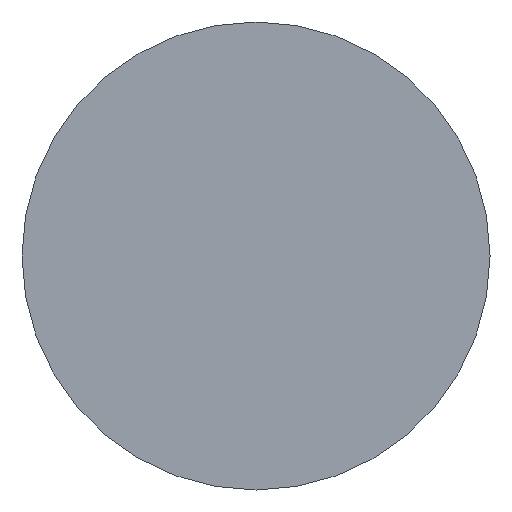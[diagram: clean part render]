
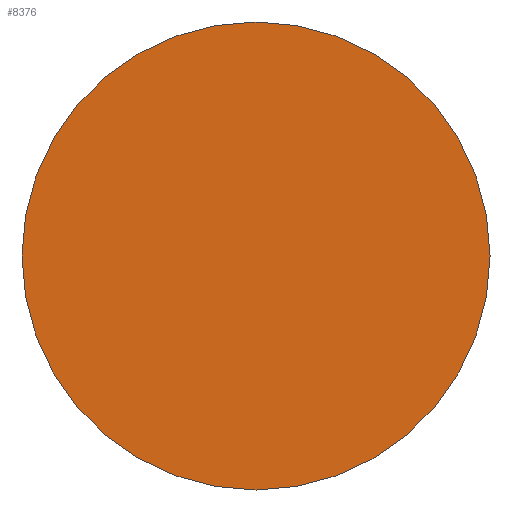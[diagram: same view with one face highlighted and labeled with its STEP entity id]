
A CAD part, front view. The second image highlights one B-rep face of the part: STEP entity #8376.
In plain terms, the highlighted planar face has unit normal (0, -1, 0).
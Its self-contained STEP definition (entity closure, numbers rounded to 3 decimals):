
#127 = DIRECTION ( 'NONE',  ( 0., 1., 0. ) ) ;
#179 = EDGE_CURVE ( 'NONE', #581, #11865, #940, .T. ) ;
#245 = CARTESIAN_POINT ( 'NONE',  ( 0., -3., -24.25 ) ) ;
#581 = VERTEX_POINT ( 'NONE', #245 ) ;
#940 = CIRCLE ( 'NONE', #12191, 24.25 ) ;
#2613 = DIRECTION ( 'NONE',  ( 0., 1., 0. ) ) ;
#4281 = DIRECTION ( 'NONE',  ( 0., 0., 1. ) ) ;
#4327 = DIRECTION ( 'NONE',  ( 0., 1., 0. ) ) ;
#4912 = EDGE_CURVE ( 'NONE', #11865, #581, #6124, .T. ) ;
#6124 = CIRCLE ( 'NONE', #10181, 24.25 ) ;
#6606 = DIRECTION ( 'NONE',  ( 0., 0., 1. ) ) ;
#8051 = AXIS2_PLACEMENT_3D ( 'NONE', #12391, #4327, #4281 ) ;
#8262 = CARTESIAN_POINT ( 'NONE',  ( 0., -3., 24.25 ) ) ;
#8376 = ADVANCED_FACE ( 'NONE', ( #11731 ), #11345, .F. ) ;
#9072 = ORIENTED_EDGE ( 'NONE', *, *, #4912, .F. ) ;
#9259 = DIRECTION ( 'NONE',  ( 0., 0., 1. ) ) ;
#10140 = CARTESIAN_POINT ( 'NONE',  ( 0., -3., 0. ) ) ;
#10181 = AXIS2_PLACEMENT_3D ( 'NONE', #10140, #127, #9259 ) ;
#11034 = EDGE_LOOP ( 'NONE', ( #9072, #11824 ) ) ;
#11345 = PLANE ( 'NONE',  #8051 ) ;
#11731 = FACE_OUTER_BOUND ( 'NONE', #11034, .T. ) ;
#11824 = ORIENTED_EDGE ( 'NONE', *, *, #179, .F. ) ;
#11865 = VERTEX_POINT ( 'NONE', #8262 ) ;
#12191 = AXIS2_PLACEMENT_3D ( 'NONE', #12607, #2613, #6606 ) ;
#12391 = CARTESIAN_POINT ( 'NONE',  ( 28.4, -3., 0. ) ) ;
#12607 = CARTESIAN_POINT ( 'NONE',  ( 0., -3., 0. ) ) ;
